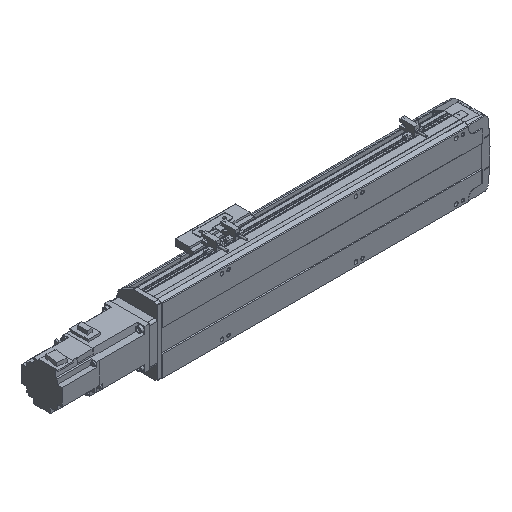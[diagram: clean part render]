
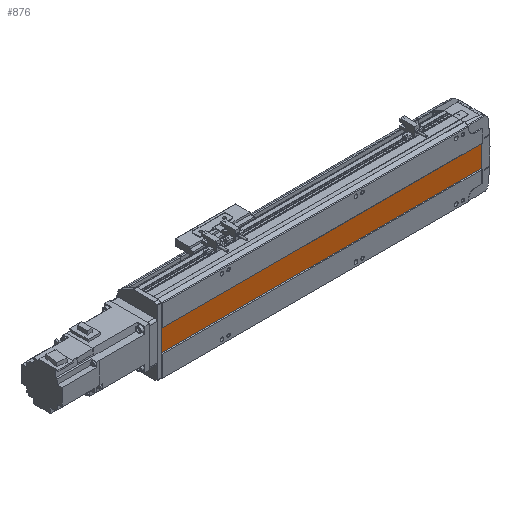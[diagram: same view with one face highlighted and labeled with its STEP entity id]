
A CAD part, isometric view. The second image highlights one B-rep face of the part: STEP entity #876.
In plain terms, the highlighted planar face has unit normal (0, -1, 0).
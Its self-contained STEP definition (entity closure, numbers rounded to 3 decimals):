
#876 = ADVANCED_FACE( '', ( #2316 ), #2317, .F. );
#2316 = FACE_OUTER_BOUND( '', #4565, .T. );
#2317 = PLANE( '', #4566 );
#4565 = EDGE_LOOP( '', ( #6855, #6856, #6857, #6858 ) );
#4566 = AXIS2_PLACEMENT_3D( '', #6859, #6860, #6861 );
#6855 = ORIENTED_EDGE( '', *, *, #12997, .F. );
#6856 = ORIENTED_EDGE( '', *, *, #12998, .T. );
#6857 = ORIENTED_EDGE( '', *, *, #12999, .T. );
#6858 = ORIENTED_EDGE( '', *, *, #13000, .F. );
#6859 = CARTESIAN_POINT( '', ( 497., 1., 16. ) );
#6860 = DIRECTION( '', ( 0., 1., 0. ) );
#6861 = DIRECTION( '', ( 0., 0., 1. ) );
#12997 = EDGE_CURVE( '', #15441, #15442, #15443, .T. );
#12998 = EDGE_CURVE( '', #15441, #15444, #15445, .T. );
#12999 = EDGE_CURVE( '', #15444, #15446, #15447, .T. );
#13000 = EDGE_CURVE( '', #15442, #15446, #15448, .T. );
#15441 = VERTEX_POINT( '', #19112 );
#15442 = VERTEX_POINT( '', #19113 );
#15443 = LINE( '', #19114, #19115 );
#15444 = VERTEX_POINT( '', #19116 );
#15445 = LINE( '', #19117, #19118 );
#15446 = VERTEX_POINT( '', #19119 );
#15447 = LINE( '', #19120, #19121 );
#15448 = LINE( '', #19122, #19123 );
#19112 = CARTESIAN_POINT( '', ( 483.5, 1., 16. ) );
#19113 = CARTESIAN_POINT( '', ( 483.5, 1., -16. ) );
#19114 = CARTESIAN_POINT( '', ( 483.5, 1., 16. ) );
#19115 = VECTOR( '', #24288, 1000. );
#19116 = CARTESIAN_POINT( '', ( 6., 1., 16. ) );
#19117 = CARTESIAN_POINT( '', ( 497., 1., 16. ) );
#19118 = VECTOR( '', #24289, 1000. );
#19119 = CARTESIAN_POINT( '', ( 6., 1., -16. ) );
#19120 = CARTESIAN_POINT( '', ( 6., 1., 16. ) );
#19121 = VECTOR( '', #24290, 1000. );
#19122 = CARTESIAN_POINT( '', ( 497., 1., -16. ) );
#19123 = VECTOR( '', #24291, 1000. );
#24288 = DIRECTION( '', ( 0., 0., -1. ) );
#24289 = DIRECTION( '', ( -1., 0., 0. ) );
#24290 = DIRECTION( '', ( 0., 0., -1. ) );
#24291 = DIRECTION( '', ( -1., 0., 0. ) );
